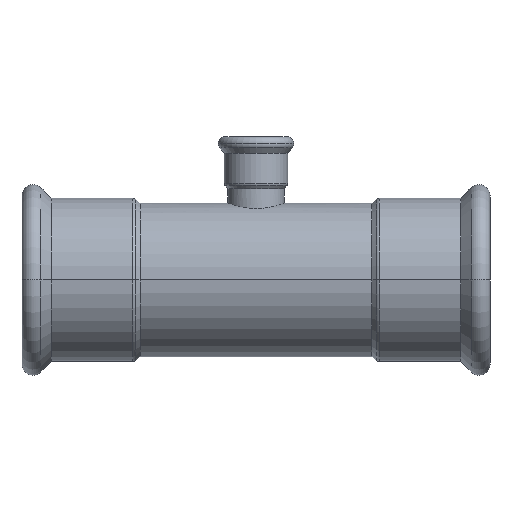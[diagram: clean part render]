
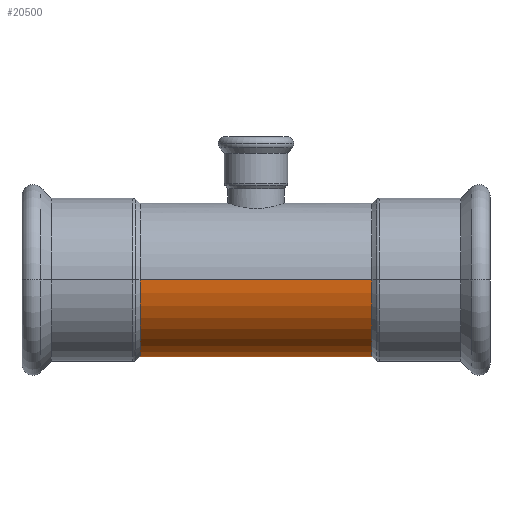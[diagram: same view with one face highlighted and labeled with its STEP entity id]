
A CAD part, front view. The second image highlights one B-rep face of the part: STEP entity #20500.
In plain terms, the highlighted cylindrical face has radius 38.05 mm (diameter 76.1 mm), a partial arc.
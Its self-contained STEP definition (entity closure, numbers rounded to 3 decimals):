
#13060=CARTESIAN_POINT('',(-346.806,-3.327,0.));
#13070=DIRECTION('',(1.,0.,0.));
#13080=DIRECTION('',(0.,0.,-1.));
#13090=AXIS2_PLACEMENT_3D('',#13060,#13070,#13080);
#13100=CYLINDRICAL_SURFACE('',#13090,38.05);
#20140=CARTESIAN_POINT('',(-346.806,-3.327,38.05));
#20150=DIRECTION('',(1.,0.,0.));
#20160=VECTOR('',#20150,1.);
#20170=LINE('',#20140,#20160);
#20180=CARTESIAN_POINT('',(-461.806,-3.327,38.05));
#20190=VERTEX_POINT('',#20180);
#20200=CARTESIAN_POINT('',(-346.806,-3.327,38.05));
#20210=VERTEX_POINT('',#20200);
#20220=EDGE_CURVE('',#20190,#20210,#20170,.T.);
#20230=ORIENTED_EDGE('',*,*,#20220,.F.);
#20240=CARTESIAN_POINT('',(-346.806,-3.327,0.));
#20250=DIRECTION('',(1.,0.,0.));
#20260=DIRECTION('',(0.,0.,-1.));
#20270=AXIS2_PLACEMENT_3D('',#20240,#20250,#20260);
#20280=CIRCLE('',#20270,38.05);
#20290=CARTESIAN_POINT('',(-346.806,-3.327,-38.05));
#20300=VERTEX_POINT('',#20290);
#20310=EDGE_CURVE('',#20210,#20300,#20280,.T.);
#20320=ORIENTED_EDGE('',*,*,#20310,.F.);
#20330=CARTESIAN_POINT('',(-346.806,-3.327,-38.05));
#20340=DIRECTION('',(1.,0.,0.));
#20350=VECTOR('',#20340,1.);
#20360=LINE('',#20330,#20350);
#20370=CARTESIAN_POINT('',(-461.806,-3.327,-38.05));
#20380=VERTEX_POINT('',#20370);
#20390=EDGE_CURVE('',#20380,#20300,#20360,.T.);
#20400=ORIENTED_EDGE('',*,*,#20390,.T.);
#20410=CARTESIAN_POINT('',(-461.806,-3.327,0.));
#20420=DIRECTION('',(1.,0.,0.));
#20430=DIRECTION('',(0.,0.,-1.));
#20440=AXIS2_PLACEMENT_3D('',#20410,#20420,#20430);
#20450=CIRCLE('',#20440,38.05);
#20460=EDGE_CURVE('',#20190,#20380,#20450,.T.);
#20470=ORIENTED_EDGE('',*,*,#20460,.T.);
#20480=EDGE_LOOP('',(#20470,#20400,#20320,#20230));
#20490=FACE_OUTER_BOUND('',#20480,.T.);
#20500=ADVANCED_FACE('',(#20490),#13100,.T.);
